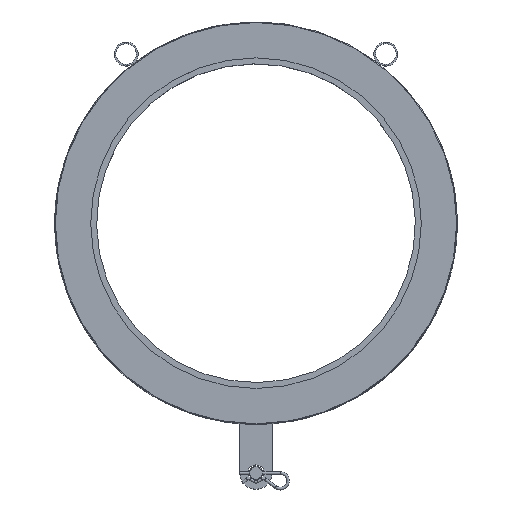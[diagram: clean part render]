
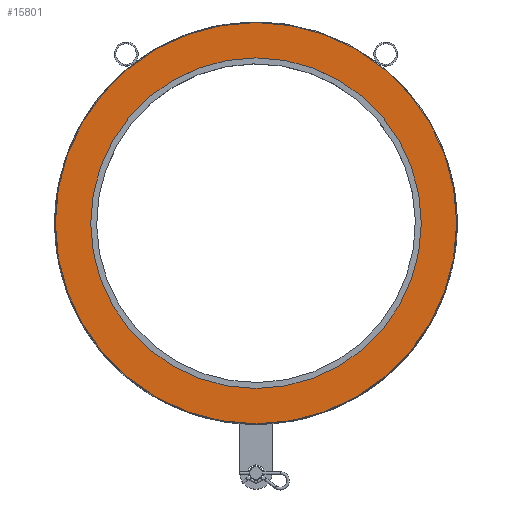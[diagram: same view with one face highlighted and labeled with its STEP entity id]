
A CAD part, top view. The second image highlights one B-rep face of the part: STEP entity #15801.
In plain terms, the highlighted planar face has unit normal (0, 0, 1).
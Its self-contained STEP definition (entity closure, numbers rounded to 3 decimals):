
#544=FACE_BOUND('',#3540,.T.);
#1738=PLANE('',#16629);
#2582=FACE_OUTER_BOUND('',#3539,.T.);
#3539=EDGE_LOOP('',(#14491));
#3540=EDGE_LOOP('',(#14492));
#6095=CIRCLE('',#16625,306.);
#6096=CIRCLE('',#16627,371.5);
#7631=VERTEX_POINT('',#37869);
#7632=VERTEX_POINT('',#37873);
#9936=EDGE_CURVE('',#7631,#7631,#6095,.T.);
#9938=EDGE_CURVE('',#7632,#7632,#6096,.T.);
#14491=ORIENTED_EDGE('',*,*,#9938,.F.);
#14492=ORIENTED_EDGE('',*,*,#9936,.T.);
#15801=ADVANCED_FACE('',(#2582,#544),#1738,.T.);
#16625=AXIS2_PLACEMENT_3D('',#37870,#19253,#19254);
#16627=AXIS2_PLACEMENT_3D('',#37874,#19258,#19259);
#16629=AXIS2_PLACEMENT_3D('',#37877,#19263,#19264);
#19253=DIRECTION('center_axis',(0.,0.,
-1.));
#19254=DIRECTION('ref_axis',(-1.,0.,0.));
#19258=DIRECTION('center_axis',(0.,0.,
-1.));
#19259=DIRECTION('ref_axis',(-1.,0.,0.));
#19263=DIRECTION('center_axis',(0.,0.,
1.));
#19264=DIRECTION('ref_axis',(-1.,0.,0.));
#37869=CARTESIAN_POINT('',(306.,0.,140.));
#37870=CARTESIAN_POINT('Origin',(0.,0.,
140.));
#37873=CARTESIAN_POINT('',(371.5,0.,140.));
#37874=CARTESIAN_POINT('Origin',(0.,0.,
140.));
#37877=CARTESIAN_POINT('Origin',(0.,0.,
140.));
